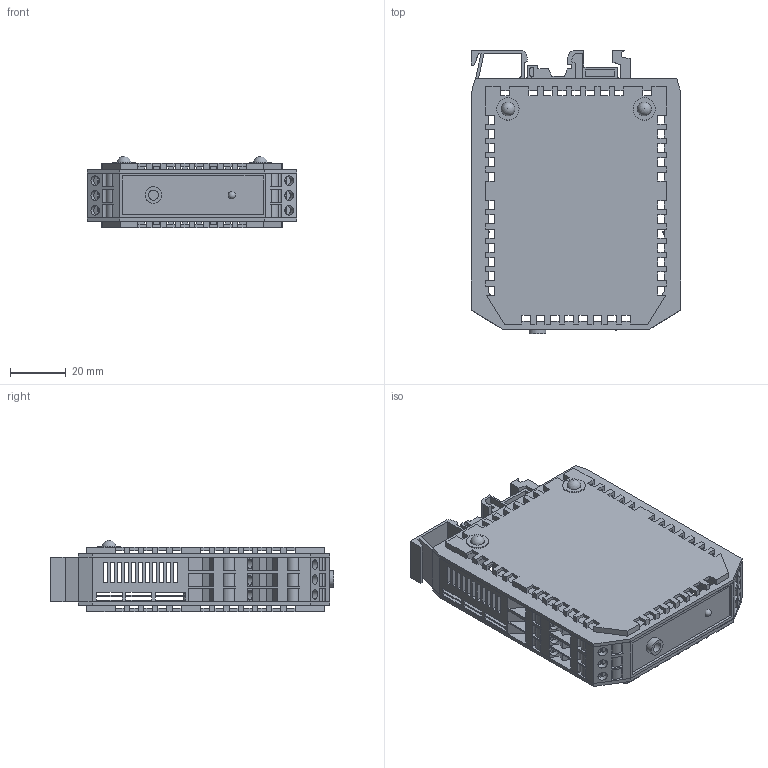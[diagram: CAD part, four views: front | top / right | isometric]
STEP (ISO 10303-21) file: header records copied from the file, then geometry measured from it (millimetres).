
FILE_DESCRIPTION(/* description */ (''),/* implementation_level */ '2;1');
FILE_NAME(/* name */ 'CNL45_.step',/* time_stamp */ '2023-09-22T11:14:59+02:00',/* author */ (''),/* organization */ (''),/* preprocessor_version */ 'ST-DEVELOPER v20',/* originating_system */ 'Autodesk Translation Framework v12.14.0.127',/* authorisation */ '');
FILE_SCHEMA (('AUTOMOTIVE_DESIGN { 1 0 10303 214 3 1 1 }'));
Length unit declared in the file: millimetre
Products named in the file (5): CNL45; Composant1; cal25ig v3; DSL1-35-HV-NUC OVERTURE FINE v1; Jack v1
Assembly tree (16 placements, depth 2):
  CNL45
    Composant1
    DSL1-35-HV-NUC OVERTURE FINE v1  x2
    cal25ig v3  x12
    Jack v1
Bounding box: 75.09 x 101.4 x 25.5 mm (x, y, z)
Volume: 37100 mm3; surface area: 52955.7 mm2
Topology: 19 solids, 19 shells, 1273 faces, 4094 edges, 2729 vertices
Faces by surface type: plane 806, cylinder 402, bspline 60, sphere 5
Full cylindrical faces by diameter (mm): 1.478 x36, 1.933 x72, 3 x18, 3.5 x24, 3.6 x1, 6 x1, 8 x2
Entity records: 27373 total; most frequent: CARTESIAN_POINT 8091, ORIENTED_EDGE 4312, DIRECTION 3487, EDGE_CURVE 2156, LINE 1867, VECTOR 1867, VERTEX_POINT 1441, AXIS2_PLACEMENT_3D 810
